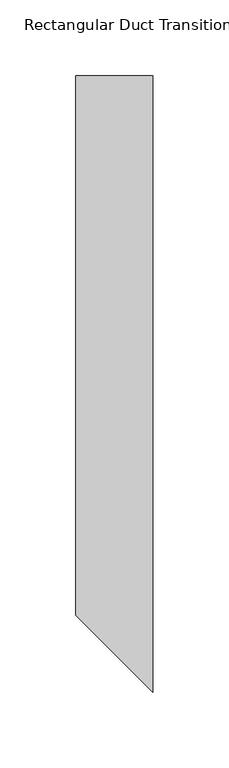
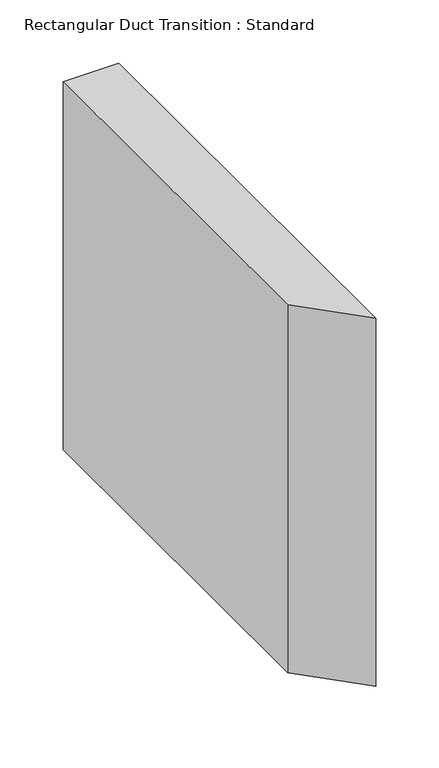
"""IFC4 building model written with IfcOpenShell, lengths in millimetres: duct fitting geometry, Rectangular Duct Transition : Standard."""

from ifc_helpers import new_model, si_unit, frame, origin, place, context, project, spatial, polyline, outline, extrude, source, transform, mapped, element, save


def rectangular_duct_transition_standard_28b61a07(model_context):
    return source(origin(), model_context, "Body", "SweptSolid", [
        extrude(outline(polyline([(0.0, -177.8), (0.0, 177.8), (50.8, 177.8), (50.8, -228.6), (0.0, -177.8)])), frame((0.0, 0.0, -177.8), z_axis=(0.0, 0.0, 1.0), x_axis=(1.0, 0.0, 0.0)), (0.0, 0.0, 1.0), 355.6),
        extrude(outline(polyline([(0.0, -177.8), (0.0, 177.8), (50.8, 177.8), (50.8, -228.6), (0.0, -177.8)])), frame((0.0, 0.0, -177.8), z_axis=(0.0, 0.0, 1.0), x_axis=(1.0, 0.0, 0.0)), (0.0, 0.0, 1.0), 355.6),
        extrude(outline(polyline([(0.0, -177.8), (0.0, 177.8), (50.8, 177.8), (50.8, -228.6), (0.0, -177.8)])), frame((0.0, 0.0, -177.8), z_axis=(0.0, 0.0, 1.0), x_axis=(1.0, 0.0, 0.0)), (0.0, 0.0, 1.0), 355.6),
    ])


if __name__ == "__main__":
    model = new_model("IFC4")
    model_context = context("Model", 3, world=origin())
    ifc_project = project(units=[si_unit("LENGTHUNIT", "METRE", prefix="MILLI")], contexts=[model_context])
    site = spatial("IfcSite", under=ifc_project)
    building = spatial("IfcBuilding", under=site)
    placement = place(None, origin())
    rectangular_duct_transition_standard_shape = rectangular_duct_transition_standard_28b61a07(model_context)
    element("IfcDuctFitting", 1, ObjectType="Rectangular Duct Transition : Standard", at=placement, inside=building, context=model_context, shape_type="MappedRepresentation", body=[
        mapped(rectangular_duct_transition_standard_shape, transform((0.0, 0.0, 0.0), x_axis=(1.0, 0.0, 0.0), y_axis=(0.0, 1.0, 0.0), z_axis=(0.0, 0.0, 1.0))),
    ])
    save(model, "model.ifc")
